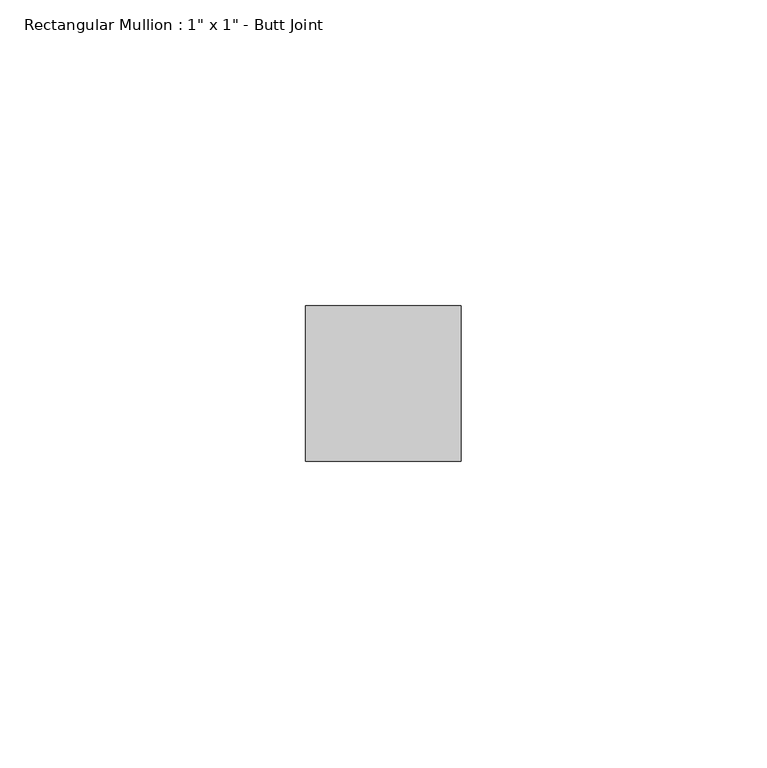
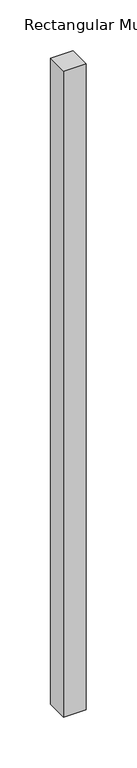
"""IFC4 building model written with IfcOpenShell, lengths in millimetres: member geometry."""

from ifc_helpers import new_model, si_unit, frame, origin, place, context, project, spatial, polyline, outline, extrude, source, transform, mapped, element, save


def member_7143316a(model_context):
    return source(origin(), model_context, "Body", "SweptSolid", [
        extrude(outline(polyline([(12.7, 12.7), (12.7, -12.7), (-12.7, -12.7), (-12.7, 12.7), (12.7, 12.7)])), frame((0.0, 0.0, -775.2593785), z_axis=(0.0, 0.0, 1.0), x_axis=(1.0, 0.0, 0.0)), (0.0, 0.0, 1.0), 775.2593785),
    ])


if __name__ == "__main__":
    model = new_model("IFC4")
    model_context = context("Model", 3, world=origin())
    ifc_project = project(units=[si_unit("LENGTHUNIT", "METRE", prefix="MILLI")], contexts=[model_context])
    site = spatial("IfcSite", under=ifc_project)
    building = spatial("IfcBuilding", under=site)
    placement = place(None, origin())
    member_shape = member_7143316a(model_context)
    element("IfcMember", 1, ObjectType="Rectangular Mullion : 1\" x 1\" - Butt Joint", at=placement, inside=building, context=model_context, shape_type="MappedRepresentation", body=[
        mapped(member_shape, transform((0.0, 0.0, 0.0), x_axis=(1.0, 0.0, 0.0), y_axis=(0.0, 1.0, 0.0), z_axis=(0.0, 0.0, 1.0))),
    ])
    save(model, "model.ifc")
